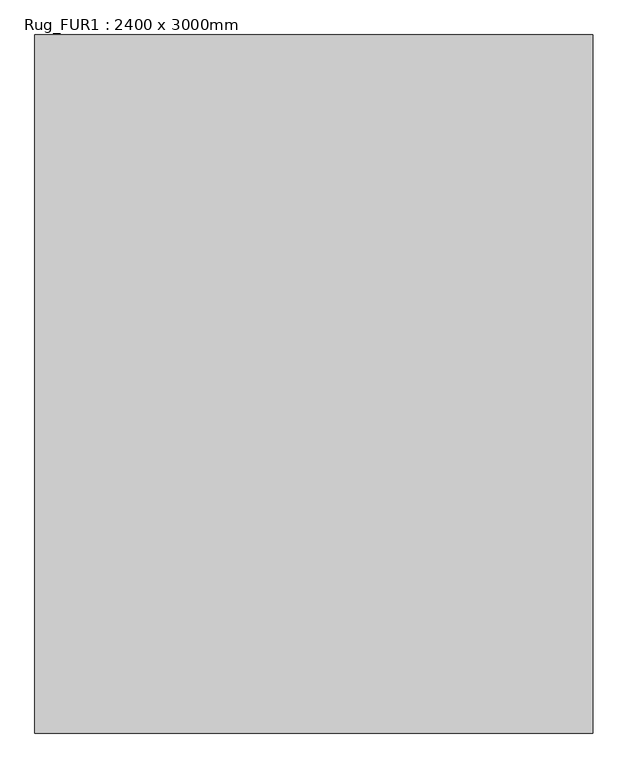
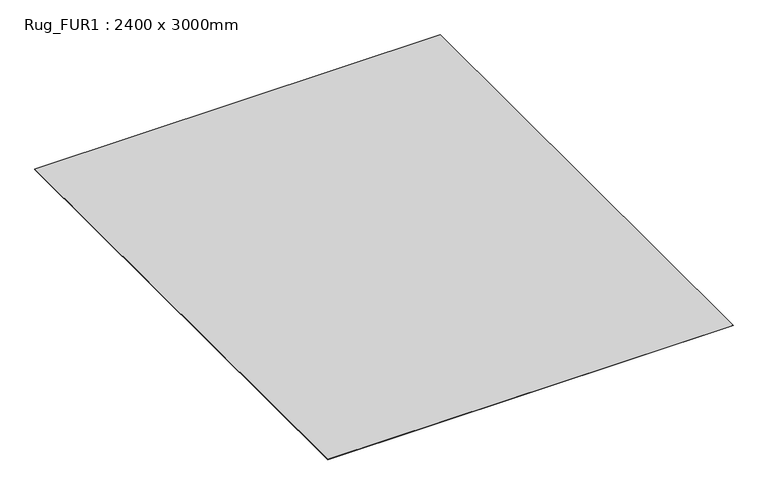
"""IFC4 building model written with IfcOpenShell, lengths in millimetres: proxy geometry, Rug_FUR1 : 2400 x 3000mm."""

from ifc_helpers import new_model, si_unit, origin, origin_with_axes, place, context, project, spatial, polyline, outline, extrude, source, transform, mapped, element, save


def rug_fur1_2400_x_3000mm_db8768f6(model_context):
    return source(origin(), model_context, "Body", "SweptSolid", [
        extrude(outline(polyline([(1200.0, 1500.0), (1200.0, -1500.0), (-1200.0, -1500.0), (-1200.0, 1500.0), (1200.0, 1500.0)])), origin_with_axes(), (0.0, 0.0, 1.0), 2.0),
    ])


if __name__ == "__main__":
    model = new_model("IFC4")
    model_context = context("Model", 3, world=origin())
    ifc_project = project(units=[si_unit("LENGTHUNIT", "METRE", prefix="MILLI")], contexts=[model_context])
    site = spatial("IfcSite", under=ifc_project)
    building = spatial("IfcBuilding", under=site)
    placement = place(None, origin())
    rug_fur1_2400_x_3000mm_shape = rug_fur1_2400_x_3000mm_db8768f6(model_context)
    element("IfcBuildingElementProxy", 1, Name="Rug_FUR1 : 2400 x 3000mm", ObjectType="Rug_FUR1 : 2400 x 3000mm", at=placement, inside=building, context=model_context, shape_type="MappedRepresentation", body=[
        mapped(rug_fur1_2400_x_3000mm_shape, transform((0.0, 0.0, 0.0), x_axis=(1.0, 0.0, 0.0), y_axis=(0.0, 1.0, 0.0), z_axis=(0.0, 0.0, 1.0))),
    ])
    save(model, "model.ifc")
